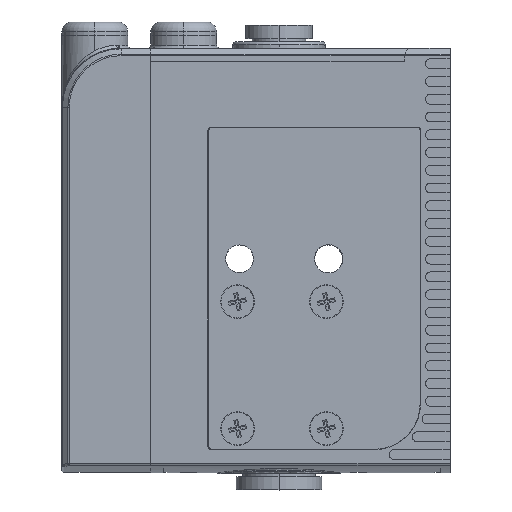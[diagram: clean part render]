
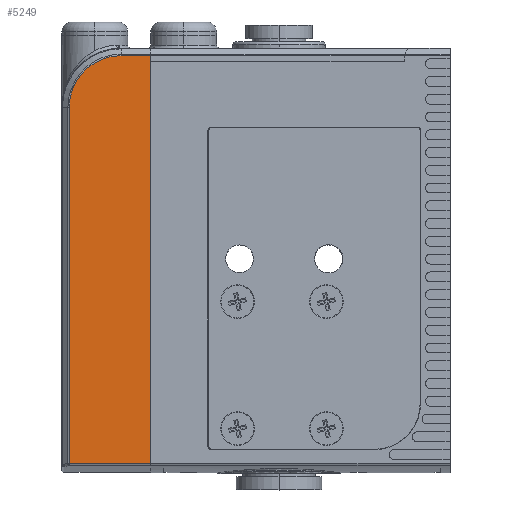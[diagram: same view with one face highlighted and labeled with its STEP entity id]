
A CAD part, top view. The second image highlights one B-rep face of the part: STEP entity #5249.
In plain terms, the highlighted planar face has unit normal (0, 0, 1).
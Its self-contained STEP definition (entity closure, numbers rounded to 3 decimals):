
#1464 = DIRECTION ( 'NONE',  ( 0., 0., 1. ) ) ;
#1481 = DIRECTION ( 'NONE',  ( 1., 0., 0. ) ) ;
#1673 = CARTESIAN_POINT ( 'NONE',  ( -57.876, 55., 12.5 ) ) ;
#2712 = EDGE_CURVE ( 'NONE', #29653, #29363, #8348, .T. ) ;
#3505 = DIRECTION ( 'NONE',  ( 1., 0., 0. ) ) ;
#4954 = FACE_OUTER_BOUND ( 'NONE', #17454, .T. ) ;
#5249 = ADVANCED_FACE ( 'NONE', ( #4954 ), #30429, .T. ) ;
#5933 = ORIENTED_EDGE ( 'NONE', *, *, #31754, .T. ) ;
#7935 = EDGE_CURVE ( 'NONE', #29653, #34461, #28753, .T. ) ;
#8334 = VECTOR ( 'NONE', #8850, 1000. ) ;
#8348 = LINE ( 'NONE', #12243, #16896 ) ;
#8850 = DIRECTION ( 'NONE',  ( 0., -1., 0. ) ) ;
#9158 = VERTEX_POINT ( 'NONE', #19371 ) ;
#9388 = VECTOR ( 'NONE', #21848, 1000. ) ;
#11528 = CARTESIAN_POINT ( 'NONE',  ( -57.876, 55., 12.5 ) ) ;
#12243 = CARTESIAN_POINT ( 'NONE',  ( -45.5, 69.5, 12.5 ) ) ;
#12791 = ORIENTED_EDGE ( 'NONE', *, *, #2712, .F. ) ;
#15385 = CARTESIAN_POINT ( 'NONE',  ( -45.5, 62.876, 12.5 ) ) ;
#16502 = LINE ( 'NONE', #25317, #35871 ) ;
#16896 = VECTOR ( 'NONE', #23240, 1000. ) ;
#17297 = ORIENTED_EDGE ( 'NONE', *, *, #44374, .T. ) ;
#17454 = EDGE_LOOP ( 'NONE', ( #33132, #5933, #17297, #40113, #12791 ) ) ;
#19371 = CARTESIAN_POINT ( 'NONE',  ( -57.876, 0.876, 12.5 ) ) ;
#20843 = CARTESIAN_POINT ( 'NONE',  ( -45.5, 0.876, 12.5 ) ) ;
#21848 = DIRECTION ( 'NONE',  ( -1., 0., 0. ) ) ;
#23240 = DIRECTION ( 'NONE',  ( 0., -1., 0. ) ) ;
#23269 = CARTESIAN_POINT ( 'NONE',  ( -50., 55., 12.5 ) ) ;
#23288 = DIRECTION ( 'NONE',  ( 0., 0., 1. ) ) ;
#25317 = CARTESIAN_POINT ( 'NONE',  ( -50., 0.876, 12.5 ) ) ;
#26919 = DIRECTION ( 'NONE',  ( 0., -1., 0. ) ) ;
#28753 = LINE ( 'NONE', #32501, #9388 ) ;
#29363 = VERTEX_POINT ( 'NONE', #20843 ) ;
#29653 = VERTEX_POINT ( 'NONE', #15385 ) ;
#29844 = CARTESIAN_POINT ( 'NONE',  ( -50., 62.876, 12.5 ) ) ;
#30429 = PLANE ( 'NONE',  #36722 ) ;
#31754 = EDGE_CURVE ( 'NONE', #34461, #46462, #44917, .T. ) ;
#32501 = CARTESIAN_POINT ( 'NONE',  ( -50., 62.876, 12.5 ) ) ;
#33132 = ORIENTED_EDGE ( 'NONE', *, *, #7935, .T. ) ;
#33836 = AXIS2_PLACEMENT_3D ( 'NONE', #45077, #23288, #1481 ) ;
#34461 = VERTEX_POINT ( 'NONE', #29844 ) ;
#35871 = VECTOR ( 'NONE', #3505, 1000. ) ;
#36722 = AXIS2_PLACEMENT_3D ( 'NONE', #23269, #1464, #26919 ) ;
#37383 = LINE ( 'NONE', #1673, #8334 ) ;
#37854 = EDGE_CURVE ( 'NONE', #9158, #29363, #16502, .T. ) ;
#40113 = ORIENTED_EDGE ( 'NONE', *, *, #37854, .T. ) ;
#44374 = EDGE_CURVE ( 'NONE', #46462, #9158, #37383, .T. ) ;
#44917 = CIRCLE ( 'NONE', #33836, 7.876 ) ;
#45077 = CARTESIAN_POINT ( 'NONE',  ( -50., 55., 12.5 ) ) ;
#46462 = VERTEX_POINT ( 'NONE', #11528 ) ;
